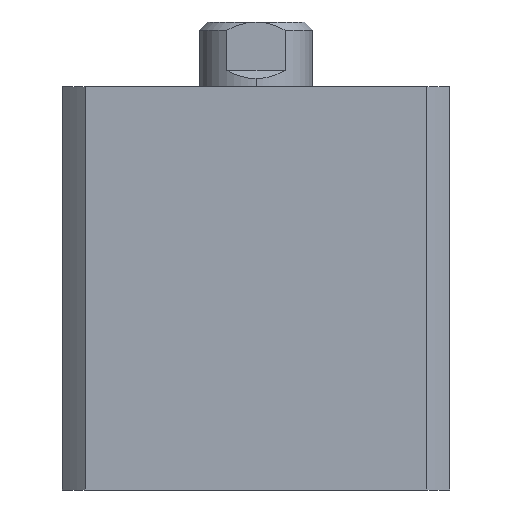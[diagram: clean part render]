
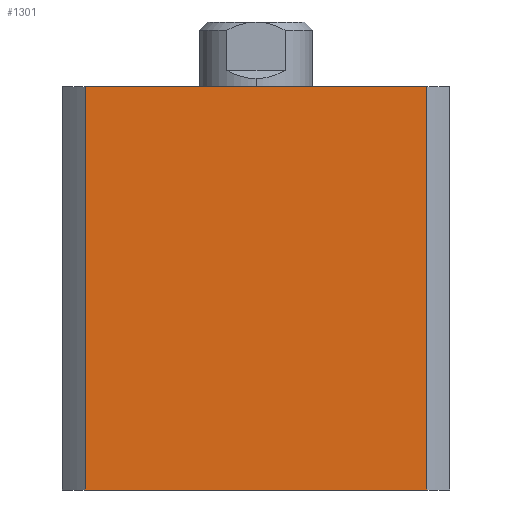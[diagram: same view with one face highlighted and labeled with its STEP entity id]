
A CAD part, left-side view. The second image highlights one B-rep face of the part: STEP entity #1301.
In plain terms, the highlighted planar face has unit normal (-1, 0, 0).
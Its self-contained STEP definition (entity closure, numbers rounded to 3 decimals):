
#209 = VERTEX_POINT ( 'NONE', #2332 ) ;
#316 = FACE_OUTER_BOUND ( 'NONE', #2850, .T. ) ;
#954 = CARTESIAN_POINT ( 'NONE',  ( -24., 0., 50. ) ) ;
#955 = DIRECTION ( 'NONE',  ( 0., -1., 0. ) ) ;
#1102 = CARTESIAN_POINT ( 'NONE',  ( -24., 0., 0. ) ) ;
#1103 = DIRECTION ( 'NONE',  ( 0., -1., 0. ) ) ;
#1107 = CARTESIAN_POINT ( 'NONE',  ( -24., 21.166, 50. ) ) ;
#1108 = CARTESIAN_POINT ( 'NONE',  ( -24., -21.166, 50. ) ) ;
#1112 = DIRECTION ( 'NONE',  ( 0., 0., -1. ) ) ;
#1113 = DIRECTION ( 'NONE',  ( 0., 0., -1. ) ) ;
#1301 = ADVANCED_FACE ( 'NONE', ( #316 ), #1520, .F. ) ;
#1347 = AXIS2_PLACEMENT_3D ( 'NONE', #1523, #1517, #1516 ) ;
#1516 = DIRECTION ( 'NONE',  ( 0., 0., -1. ) ) ;
#1517 = DIRECTION ( 'NONE',  ( 1., 0., 0. ) ) ;
#1520 = PLANE ( 'NONE',  #1347 ) ;
#1523 = CARTESIAN_POINT ( 'NONE',  ( -24., 0., 50. ) ) ;
#2332 = CARTESIAN_POINT ( 'NONE',  ( -24., 21.166, 50. ) ) ;
#2658 = VERTEX_POINT ( 'NONE', #4581 ) ;
#2675 = VERTEX_POINT ( 'NONE', #4598 ) ;
#2714 = VERTEX_POINT ( 'NONE', #4637 ) ;
#2850 = EDGE_LOOP ( 'NONE', ( #3011, #3002, #3012, #2991 ) ) ;
#2991 = ORIENTED_EDGE ( 'NONE', *, *, #4090, .T. ) ;
#3002 = ORIENTED_EDGE ( 'NONE', *, *, #4089, .F. ) ;
#3011 = ORIENTED_EDGE ( 'NONE', *, *, #4088, .T. ) ;
#3012 = ORIENTED_EDGE ( 'NONE', *, *, #4059, .F. ) ;
#3091 = LINE ( 'NONE', #954, #3093 ) ;
#3093 = VECTOR ( 'NONE', #955, 1000. ) ;
#3104 = LINE ( 'NONE', #1108, #3129 ) ;
#3125 = LINE ( 'NONE', #1102, #3127 ) ;
#3126 = LINE ( 'NONE', #1107, #3131 ) ;
#3127 = VECTOR ( 'NONE', #1103, 1000. ) ;
#3129 = VECTOR ( 'NONE', #1112, 1000. ) ;
#3131 = VECTOR ( 'NONE', #1113, 1000. ) ;
#4059 = EDGE_CURVE ( 'NONE', #209, #2658, #3091, .T. ) ;
#4088 = EDGE_CURVE ( 'NONE', #2675, #2714, #3125, .T. ) ;
#4089 = EDGE_CURVE ( 'NONE', #2658, #2714, #3104, .T. ) ;
#4090 = EDGE_CURVE ( 'NONE', #209, #2675, #3126, .T. ) ;
#4581 = CARTESIAN_POINT ( 'NONE',  ( -24., -21.166, 50. ) ) ;
#4598 = CARTESIAN_POINT ( 'NONE',  ( -24., 21.166, 0. ) ) ;
#4637 = CARTESIAN_POINT ( 'NONE',  ( -24., -21.166, 0. ) ) ;
